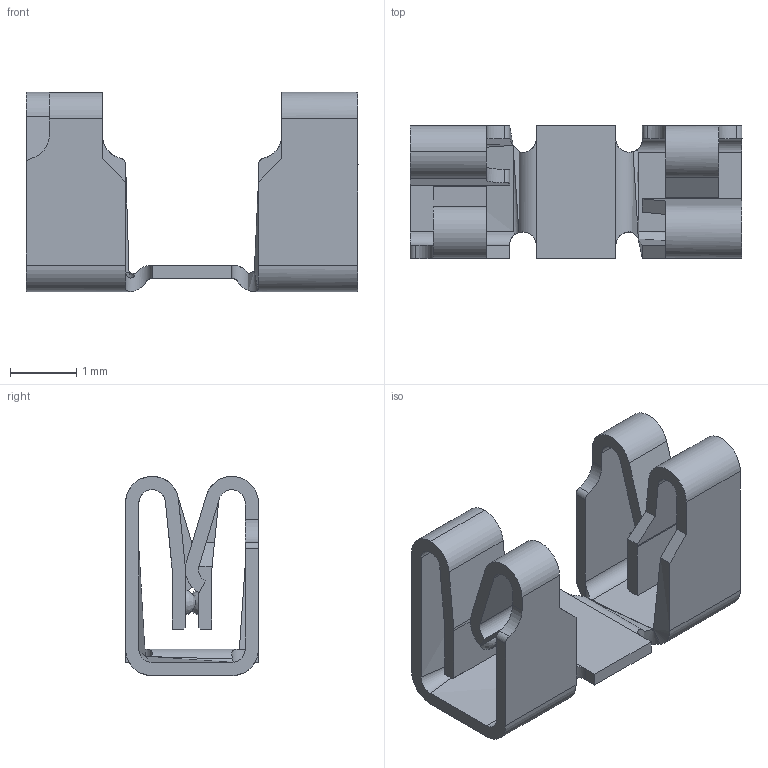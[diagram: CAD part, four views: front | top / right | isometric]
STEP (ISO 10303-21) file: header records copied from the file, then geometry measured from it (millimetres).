
FILE_DESCRIPTION (( 'STEP AP214' ), '1' );
FILE_NAME ('708069000000.STEP', '2015-05-18T02:20:03', ( '' ), ( '' ), 'SwSTEP 2.0', 'SolidWorks 2014', '' );
FILE_SCHEMA (( 'AUTOMOTIVE_DESIGN' ));
Length unit declared in the file: millimetre
Products named in the file (1): 708069000000
Bounding box: 5 x 2 x 3 mm (x, y, z)
Volume: 6.6 mm3; surface area: 77.4 mm2
Topology: 1 solids, 1 shells, 109 faces, 313 edges, 204 vertices
Faces by surface type: plane 55, cylinder 50, bspline 4
Entity records: 3887 total; most frequent: CARTESIAN_POINT 1130, ORIENTED_EDGE 618, DIRECTION 501, EDGE_CURVE 309, VERTEX_POINT 204, VECTOR 191, LINE 191, AXIS2_PLACEMENT_3D 155
